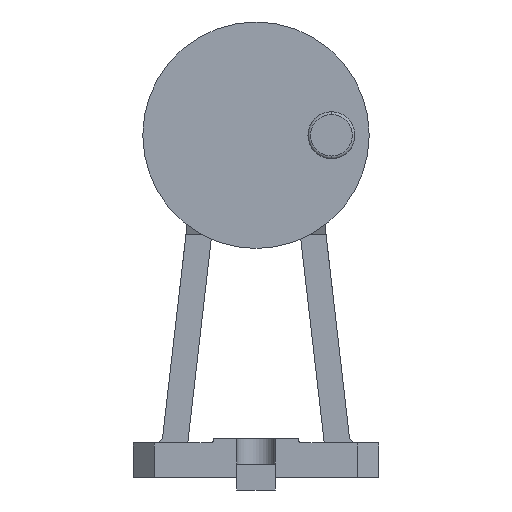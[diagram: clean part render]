
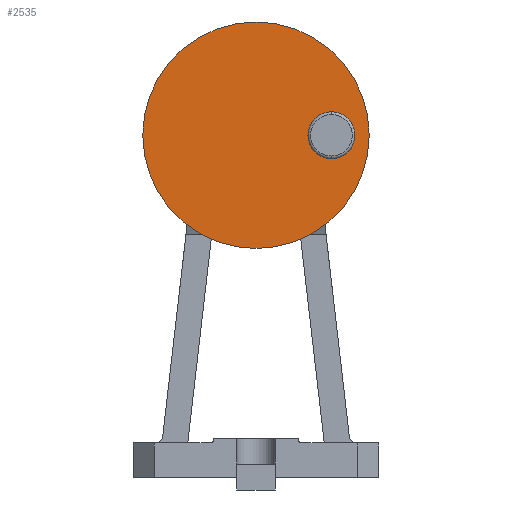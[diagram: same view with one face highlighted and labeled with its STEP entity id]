
A CAD part, left-side view. The second image highlights one B-rep face of the part: STEP entity #2535.
In plain terms, the highlighted planar face has unit normal (-1, 0, 0).
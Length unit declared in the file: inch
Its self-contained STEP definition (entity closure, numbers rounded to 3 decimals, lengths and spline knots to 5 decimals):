
#69 = CIRCLE ( 'NONE', #2617, 0.43307 ) ;
#137 = AXIS2_PLACEMENT_3D ( 'NONE', #2664, #1185, #1855 ) ;
#294 = VERTEX_POINT ( 'NONE', #397 ) ;
#397 = CARTESIAN_POINT ( 'NONE',  ( -5.17717, -1.39025, 5.86614 ) ) ;
#414 = EDGE_CURVE ( 'NONE', #3726, #294, #69, .T. ) ;
#418 = EDGE_CURVE ( 'NONE', #294, #3726, #2070, .T. ) ;
#515 = DIRECTION ( 'NONE',  ( 1., 0., 0. ) ) ;
#1179 = FACE_OUTER_BOUND ( 'NONE', #1225, .T. ) ;
#1185 = DIRECTION ( 'NONE',  ( 1., 0., 0. ) ) ;
#1225 = EDGE_LOOP ( 'NONE', ( #2566, #2145 ) ) ;
#1329 = DIRECTION ( 'NONE',  ( 1., 0., 0. ) ) ;
#1504 = CARTESIAN_POINT ( 'NONE',  ( -5.17717, 0., 8.38583 ) ) ;
#1525 = CIRCLE ( 'NONE', #3197, 2.08661 ) ;
#1641 = CIRCLE ( 'NONE', #137, 2.08661 ) ;
#1647 = CARTESIAN_POINT ( 'NONE',  ( -5.17717, -1.39025, 6.73228 ) ) ;
#1678 = EDGE_CURVE ( 'NONE', #3470, #3259, #1641, .T. ) ;
#1788 = DIRECTION ( 'NONE',  ( 1., 0., 0. ) ) ;
#1815 = AXIS2_PLACEMENT_3D ( 'NONE', #2781, #1329, #3410 ) ;
#1836 = AXIS2_PLACEMENT_3D ( 'NONE', #3253, #1788, #2959 ) ;
#1844 = CARTESIAN_POINT ( 'NONE',  ( -5.17717, 0., 6.29921 ) ) ;
#1848 = CARTESIAN_POINT ( 'NONE',  ( -5.17717, 0., 4.2126 ) ) ;
#1855 = DIRECTION ( 'NONE',  ( 0., -1., 0. ) ) ;
#1940 = CARTESIAN_POINT ( 'NONE',  ( -5.17717, -1.39025, 6.29921 ) ) ;
#2070 = CIRCLE ( 'NONE', #1815, 0.43307 ) ;
#2082 = PLANE ( 'NONE',  #1836 ) ;
#2087 = EDGE_LOOP ( 'NONE', ( #2534, #3516 ) ) ;
#2145 = ORIENTED_EDGE ( 'NONE', *, *, #3539, .F. ) ;
#2534 = ORIENTED_EDGE ( 'NONE', *, *, #418, .T. ) ;
#2535 = ADVANCED_FACE ( 'NONE', ( #3841, #1179 ), #2082, .F. ) ;
#2566 = ORIENTED_EDGE ( 'NONE', *, *, #1678, .F. ) ;
#2617 = AXIS2_PLACEMENT_3D ( 'NONE', #1940, #515, #3392 ) ;
#2664 = CARTESIAN_POINT ( 'NONE',  ( -5.17717, 0., 6.29921 ) ) ;
#2762 = DIRECTION ( 'NONE',  ( 1., 0., 0. ) ) ;
#2781 = CARTESIAN_POINT ( 'NONE',  ( -5.17717, -1.39025, 6.29921 ) ) ;
#2959 = DIRECTION ( 'NONE',  ( 0., 0., -1. ) ) ;
#2999 = DIRECTION ( 'NONE',  ( 0., -1., 0. ) ) ;
#3197 = AXIS2_PLACEMENT_3D ( 'NONE', #1844, #2762, #2999 ) ;
#3253 = CARTESIAN_POINT ( 'NONE',  ( -5.17717, 0., 6.29921 ) ) ;
#3259 = VERTEX_POINT ( 'NONE', #1848 ) ;
#3392 = DIRECTION ( 'NONE',  ( 0., -1., 0. ) ) ;
#3410 = DIRECTION ( 'NONE',  ( 0., -1., 0. ) ) ;
#3470 = VERTEX_POINT ( 'NONE', #1504 ) ;
#3516 = ORIENTED_EDGE ( 'NONE', *, *, #414, .T. ) ;
#3539 = EDGE_CURVE ( 'NONE', #3259, #3470, #1525, .T. ) ;
#3726 = VERTEX_POINT ( 'NONE', #1647 ) ;
#3841 = FACE_BOUND ( 'NONE', #2087, .T. ) ;
